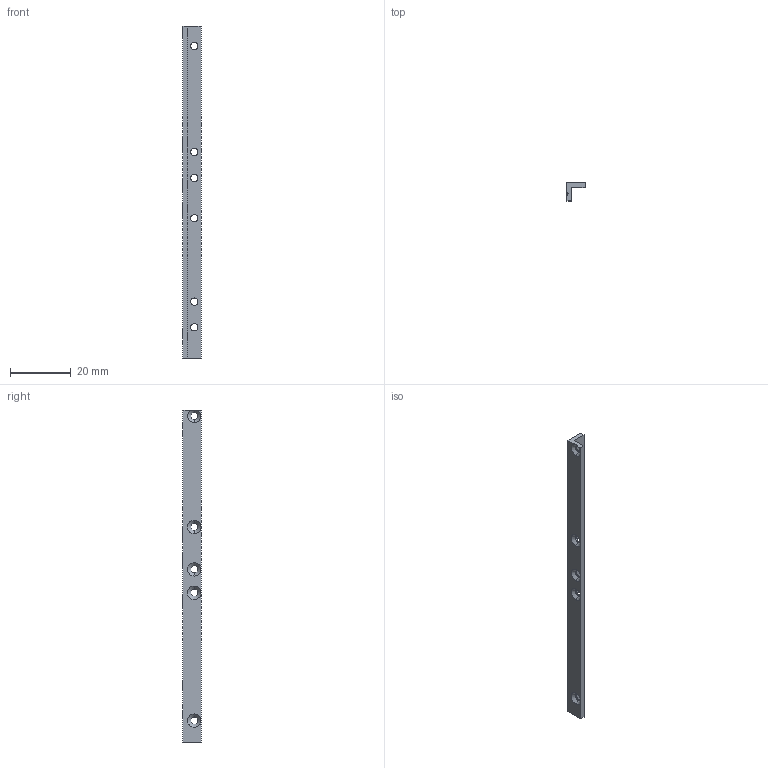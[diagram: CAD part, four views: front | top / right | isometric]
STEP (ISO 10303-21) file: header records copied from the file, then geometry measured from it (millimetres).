
FILE_DESCRIPTION (( 'STEP AP214' ), '1' );
FILE_NAME ('Rib_sx.STEP', '2025-01-13T17:29:21', ( '' ), ( '' ), 'SwSTEP 2.0', 'SolidWorks 2022', '' );
FILE_SCHEMA (( 'AUTOMOTIVE_DESIGN' ));
Length unit declared in the file: millimetre
Products named in the file (1): Rib_sx
Bounding box: 6 x 6 x 109 mm (x, y, z)
Volume: 1594 mm3; surface area: 2640.9 mm2
Topology: 1 solids, 1 shells, 50 faces, 127 edges, 78 vertices
Faces by surface type: cylinder 22, cone 20, plane 8
Entity records: 1599 total; most frequent: DIRECTION 291, CARTESIAN_POINT 266, ORIENTED_EDGE 254, EDGE_CURVE 127, AXIS2_PLACEMENT_3D 115, VERTEX_POINT 78, EDGE_LOOP 71, CIRCLE 64
